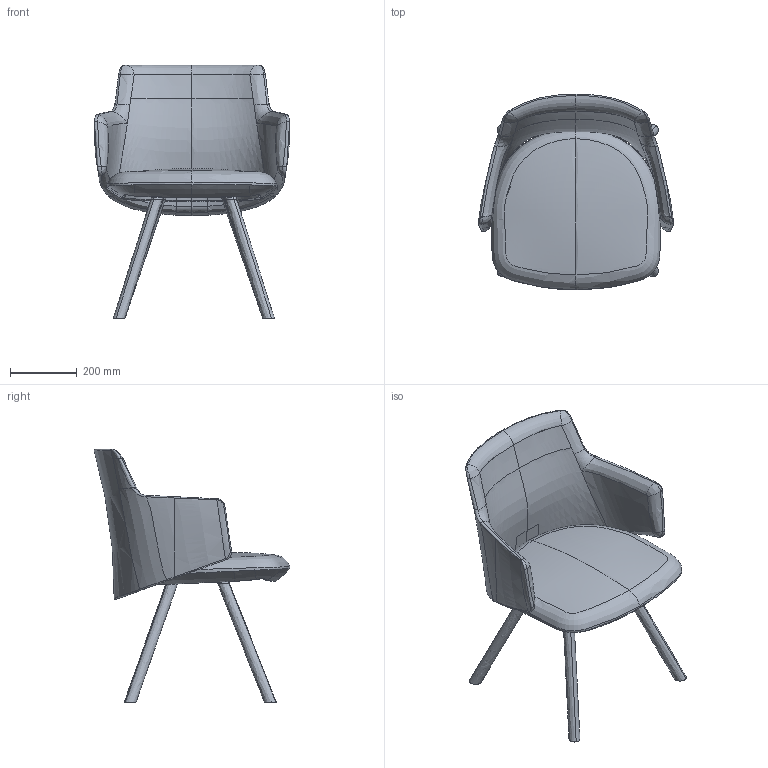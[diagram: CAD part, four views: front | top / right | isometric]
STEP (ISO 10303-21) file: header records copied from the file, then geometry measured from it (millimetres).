
FILE_DESCRIPTION(/* description */ (''),/* implementation_level */ '2;1');
FILE_NAME(/* name */ 'MELODY~1',/* time_stamp */ '2019-06-24T09:16:42+02:00',/* author */ (''),/* organization */ (''),/* preprocessor_version */ 'ST-DEVELOPER v15',/* originating_system */ '',/* authorisation */ '');
FILE_SCHEMA (('AUTOMOTIVE_DESIGN'));
Length unit declared in the file: millimetre
Products named in the file (1): Document
Bounding box: 583.87 x 585.29 x 758.84 mm (x, y, z)
Volume: 469623.7 mm3; surface area: 1677875.5 mm2
Topology: 1 solids, 11 shells, 137 faces, 425 edges, 254 vertices
Faces by surface type: bspline 126, plane 11
Entity records: 54271 total; most frequent: CARTESIAN_POINT 51775, ORIENTED_EDGE 723, EDGE_CURVE 424, B_SPLINE_CURVE_WITH_KNOTS 400, VERTEX_POINT 254, ADVANCED_FACE 137, FACE_OUTER_BOUND 137, EDGE_LOOP 137
